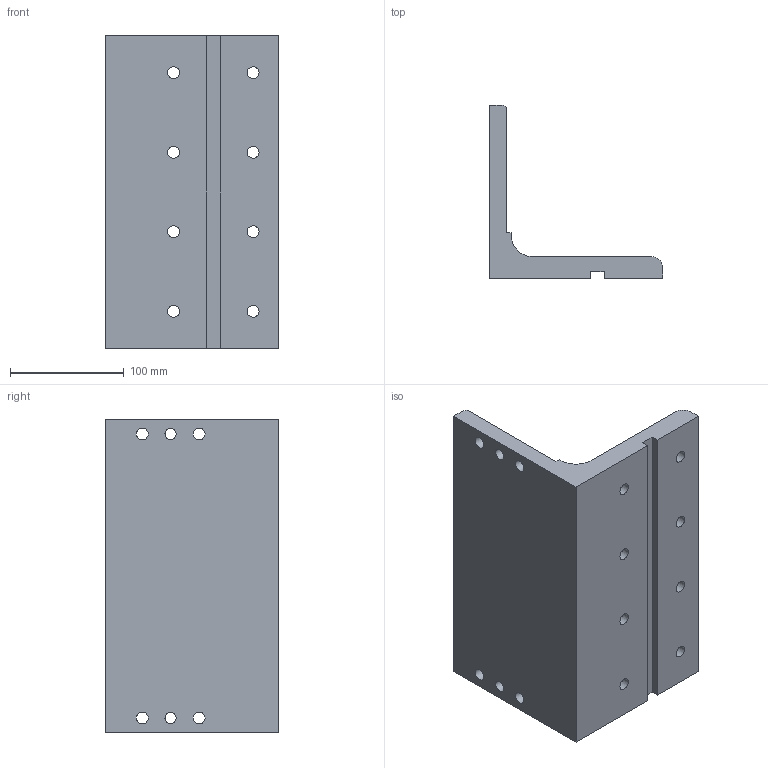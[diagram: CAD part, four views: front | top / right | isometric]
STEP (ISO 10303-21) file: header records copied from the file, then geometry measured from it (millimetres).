
FILE_DESCRIPTION(/* description */ ('ANGLE BRACKET'),/* implementation_level */ '2;1');
FILE_NAME(/* name */ 'C:\Vault Workspace\CAD\Welker\Shot Pin\DBL40\S01896 DB4 Mounting Accessories\S01896E01.stp',/* time_stamp */ '2016-05-04T13:54:16-04:00',/* author */ ('klabrecque'),/* organization */ (''),/* preprocessor_version */ 'ST-DEVELOPER v15.2',/* originating_system */ 'Autodesk Inventor 2014',/* authorisation */ '');
FILE_SCHEMA (('AUTOMOTIVE_DESIGN { 1 0 10303 214 3 1 1 }'));
Length unit declared in the file: millimetre
Products named in the file (1): S01896E01
Bounding box: 152.4 x 152.4 x 275 mm (x, y, z)
Volume: 1345642.6 mm3; surface area: 182821.1 mm2
Topology: 1 solids, 1 shells, 31 faces, 101 edges, 72 vertices
Faces by surface type: cylinder 17, plane 14
Full cylindrical faces by diameter (mm): 10 x2, 10.5 x12
Entity records: 1022 total; most frequent: DIRECTION 171, CARTESIAN_POINT 163, ORIENTED_EDGE 146, EDGE_LOOP 73, EDGE_CURVE 73, AXIS2_PLACEMENT_3D 66, VERTEX_POINT 58, FACE_BOUND 46
